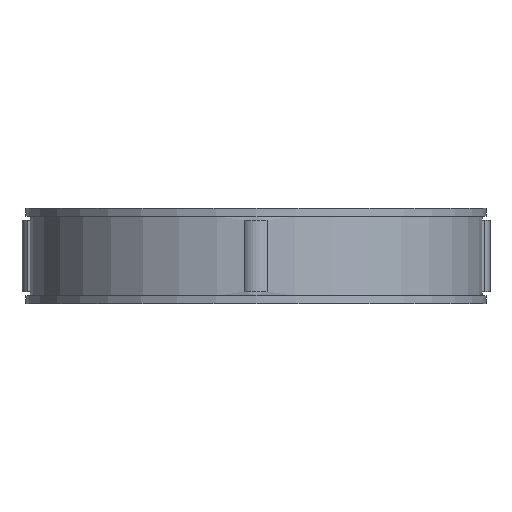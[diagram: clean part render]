
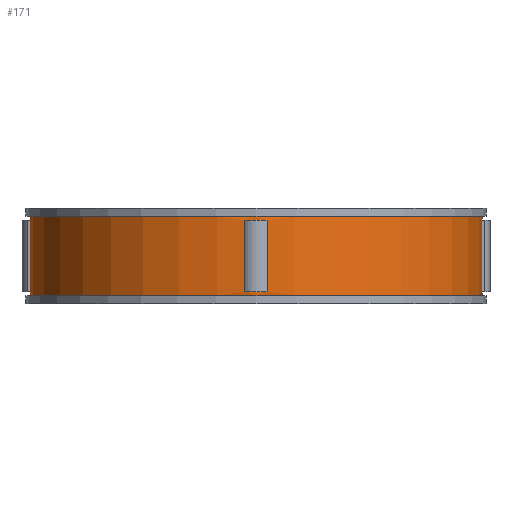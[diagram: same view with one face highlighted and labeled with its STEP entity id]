
A CAD part, front view. The second image highlights one B-rep face of the part: STEP entity #171.
In plain terms, the highlighted cylindrical face has radius 28.5 mm (diameter 57 mm), a full revolution.
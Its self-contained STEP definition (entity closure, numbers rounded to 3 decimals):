
#171=ADVANCED_FACE('',(#359,#360,#361,#362,#363,#364),#219,.T.);
#219=CYLINDRICAL_SURFACE('',#882,28.5);
#231=LINE('',#1207,#295);
#232=LINE('',#1212,#296);
#233=LINE('',#1215,#297);
#234=LINE('',#1220,#298);
#235=LINE('',#1223,#299);
#236=LINE('',#1228,#300);
#237=LINE('',#1234,#301);
#238=LINE('',#1238,#302);
#295=VECTOR('',#966,1.);
#296=VECTOR('',#969,1.);
#297=VECTOR('',#972,1.);
#298=VECTOR('',#975,1.);
#299=VECTOR('',#978,1.);
#300=VECTOR('',#981,1.);
#301=VECTOR('',#986,1.);
#302=VECTOR('',#989,1.);
#359=FACE_BOUND('',#383,.T.);
#360=FACE_BOUND('',#384,.T.);
#361=FACE_BOUND('',#385,.T.);
#362=FACE_BOUND('',#386,.T.);
#363=FACE_BOUND('',#387,.T.);
#364=FACE_BOUND('',#388,.T.);
#383=EDGE_LOOP('',(#447));
#384=EDGE_LOOP('',(#448));
#385=EDGE_LOOP('',(#449,#450,#451,#452));
#386=EDGE_LOOP('',(#453,#454,#455,#456));
#387=EDGE_LOOP('',(#457,#458,#459,#460));
#388=EDGE_LOOP('',(#461,#462,#463,#464));
#447=ORIENTED_EDGE('',*,*,#727,.F.);
#448=ORIENTED_EDGE('',*,*,#728,.T.);
#449=ORIENTED_EDGE('',*,*,#729,.F.);
#450=ORIENTED_EDGE('',*,*,#730,.T.);
#451=ORIENTED_EDGE('',*,*,#731,.F.);
#452=ORIENTED_EDGE('',*,*,#732,.F.);
#453=ORIENTED_EDGE('',*,*,#733,.F.);
#454=ORIENTED_EDGE('',*,*,#734,.T.);
#455=ORIENTED_EDGE('',*,*,#735,.F.);
#456=ORIENTED_EDGE('',*,*,#736,.F.);
#457=ORIENTED_EDGE('',*,*,#737,.F.);
#458=ORIENTED_EDGE('',*,*,#738,.T.);
#459=ORIENTED_EDGE('',*,*,#739,.F.);
#460=ORIENTED_EDGE('',*,*,#740,.F.);
#461=ORIENTED_EDGE('',*,*,#741,.F.);
#462=ORIENTED_EDGE('',*,*,#742,.T.);
#463=ORIENTED_EDGE('',*,*,#743,.T.);
#464=ORIENTED_EDGE('',*,*,#744,.T.);
#655=VERTEX_POINT('',#1204);
#656=VERTEX_POINT('',#1206);
#657=VERTEX_POINT('',#1208);
#658=VERTEX_POINT('',#1209);
#659=VERTEX_POINT('',#1211);
#660=VERTEX_POINT('',#1213);
#661=VERTEX_POINT('',#1216);
#662=VERTEX_POINT('',#1217);
#663=VERTEX_POINT('',#1219);
#664=VERTEX_POINT('',#1221);
#665=VERTEX_POINT('',#1224);
#666=VERTEX_POINT('',#1225);
#667=VERTEX_POINT('',#1227);
#668=VERTEX_POINT('',#1229);
#669=VERTEX_POINT('',#1232);
#670=VERTEX_POINT('',#1233);
#671=VERTEX_POINT('',#1235);
#672=VERTEX_POINT('',#1237);
#727=EDGE_CURVE('',#655,#655,#831,.T.);
#728=EDGE_CURVE('',#656,#656,#832,.T.);
#729=EDGE_CURVE('',#657,#658,#231,.T.);
#730=EDGE_CURVE('',#657,#659,#833,.T.);
#731=EDGE_CURVE('',#660,#659,#232,.T.);
#732=EDGE_CURVE('',#658,#660,#834,.T.);
#733=EDGE_CURVE('',#661,#662,#233,.T.);
#734=EDGE_CURVE('',#661,#663,#835,.T.);
#735=EDGE_CURVE('',#664,#663,#234,.T.);
#736=EDGE_CURVE('',#662,#664,#836,.T.);
#737=EDGE_CURVE('',#665,#666,#235,.T.);
#738=EDGE_CURVE('',#665,#667,#837,.T.);
#739=EDGE_CURVE('',#668,#667,#236,.T.);
#740=EDGE_CURVE('',#666,#668,#838,.T.);
#741=EDGE_CURVE('',#669,#670,#839,.T.);
#742=EDGE_CURVE('',#669,#671,#237,.T.);
#743=EDGE_CURVE('',#671,#672,#840,.T.);
#744=EDGE_CURVE('',#672,#670,#238,.T.);
#831=CIRCLE('',#872,28.5);
#832=CIRCLE('',#873,28.5);
#833=CIRCLE('',#874,28.5);
#834=CIRCLE('',#875,28.5);
#835=CIRCLE('',#876,28.5);
#836=CIRCLE('',#877,28.5);
#837=CIRCLE('',#878,28.5);
#838=CIRCLE('',#879,28.5);
#839=CIRCLE('',#880,28.5);
#840=CIRCLE('',#881,28.5);
#872=AXIS2_PLACEMENT_3D('',#1203,#962,#963);
#873=AXIS2_PLACEMENT_3D('',#1205,#964,#965);
#874=AXIS2_PLACEMENT_3D('',#1210,#967,#968);
#875=AXIS2_PLACEMENT_3D('',#1214,#970,#971);
#876=AXIS2_PLACEMENT_3D('',#1218,#973,#974);
#877=AXIS2_PLACEMENT_3D('',#1222,#976,#977);
#878=AXIS2_PLACEMENT_3D('',#1226,#979,#980);
#879=AXIS2_PLACEMENT_3D('',#1230,#982,#983);
#880=AXIS2_PLACEMENT_3D('',#1231,#984,#985);
#881=AXIS2_PLACEMENT_3D('',#1236,#987,#988);
#882=AXIS2_PLACEMENT_3D('',#1239,#990,#991);
#962=DIRECTION('',(0.,0.,1.));
#963=DIRECTION('',(1.,0.,0.));
#964=DIRECTION('',(0.,0.,1.));
#965=DIRECTION('',(1.,0.,0.));
#966=DIRECTION('',(0.,0.,-1.));
#967=DIRECTION('',(0.,0.,1.));
#968=DIRECTION('',(1.,0.,0.));
#969=DIRECTION('',(0.,0.,1.));
#970=DIRECTION('',(0.,0.,1.));
#971=DIRECTION('',(1.,0.,0.));
#972=DIRECTION('',(0.,0.,-1.));
#973=DIRECTION('',(0.,0.,1.));
#974=DIRECTION('',(1.,0.,0.));
#975=DIRECTION('',(0.,0.,1.));
#976=DIRECTION('',(0.,0.,1.));
#977=DIRECTION('',(1.,0.,0.));
#978=DIRECTION('',(0.,0.,-1.));
#979=DIRECTION('',(0.,0.,1.));
#980=DIRECTION('',(1.,0.,0.));
#981=DIRECTION('',(0.,0.,1.));
#982=DIRECTION('',(0.,0.,1.));
#983=DIRECTION('',(1.,0.,0.));
#984=DIRECTION('',(0.,0.,-1.));
#985=DIRECTION('',(-1.,0.,0.));
#986=DIRECTION('',(0.,0.,-1.));
#987=DIRECTION('',(0.,0.,-1.));
#988=DIRECTION('',(-1.,0.,0.));
#989=DIRECTION('',(0.,0.,1.));
#990=DIRECTION('',(0.,0.,-1.));
#991=DIRECTION('',(-1.,0.,0.));
#1203=CARTESIAN_POINT('',(0.,0.,11.));
#1204=CARTESIAN_POINT('',(28.5,0.,11.));
#1205=CARTESIAN_POINT('',(0.,0.,1.));
#1206=CARTESIAN_POINT('',(28.5,0.,1.));
#1207=CARTESIAN_POINT('',(28.462,-1.471,12.));
#1208=CARTESIAN_POINT('',(28.462,-1.471,10.5));
#1209=CARTESIAN_POINT('',(28.462,-1.471,1.5));
#1210=CARTESIAN_POINT('',(0.,0.,10.5));
#1211=CARTESIAN_POINT('',(28.462,1.471,10.5));
#1212=CARTESIAN_POINT('',(28.462,1.471,12.));
#1213=CARTESIAN_POINT('',(28.462,1.471,1.5));
#1214=CARTESIAN_POINT('',(0.,0.,1.5));
#1215=CARTESIAN_POINT('',(1.471,28.462,12.));
#1216=CARTESIAN_POINT('',(1.471,28.462,10.5));
#1217=CARTESIAN_POINT('',(1.471,28.462,1.5));
#1218=CARTESIAN_POINT('',(0.,0.,10.5));
#1219=CARTESIAN_POINT('',(-1.471,28.462,10.5));
#1220=CARTESIAN_POINT('',(-1.471,28.462,12.));
#1221=CARTESIAN_POINT('',(-1.471,28.462,1.5));
#1222=CARTESIAN_POINT('',(0.,0.,1.5));
#1223=CARTESIAN_POINT('',(-28.462,1.471,12.));
#1224=CARTESIAN_POINT('',(-28.462,1.471,10.5));
#1225=CARTESIAN_POINT('',(-28.462,1.471,1.5));
#1226=CARTESIAN_POINT('',(0.,0.,10.5));
#1227=CARTESIAN_POINT('',(-28.462,-1.471,10.5));
#1228=CARTESIAN_POINT('',(-28.462,-1.471,12.));
#1229=CARTESIAN_POINT('',(-28.462,-1.471,1.5));
#1230=CARTESIAN_POINT('',(0.,0.,1.5));
#1231=CARTESIAN_POINT('',(0.,0.,10.5));
#1232=CARTESIAN_POINT('',(1.471,-28.462,10.5));
#1233=CARTESIAN_POINT('',(-1.471,-28.462,10.5));
#1234=CARTESIAN_POINT('',(1.471,-28.462,12.));
#1235=CARTESIAN_POINT('',(1.471,-28.462,1.5));
#1236=CARTESIAN_POINT('',(0.,0.,1.5));
#1237=CARTESIAN_POINT('',(-1.471,-28.462,1.5));
#1238=CARTESIAN_POINT('',(-1.471,-28.462,12.));
#1239=CARTESIAN_POINT('',(0.,0.,12.));
